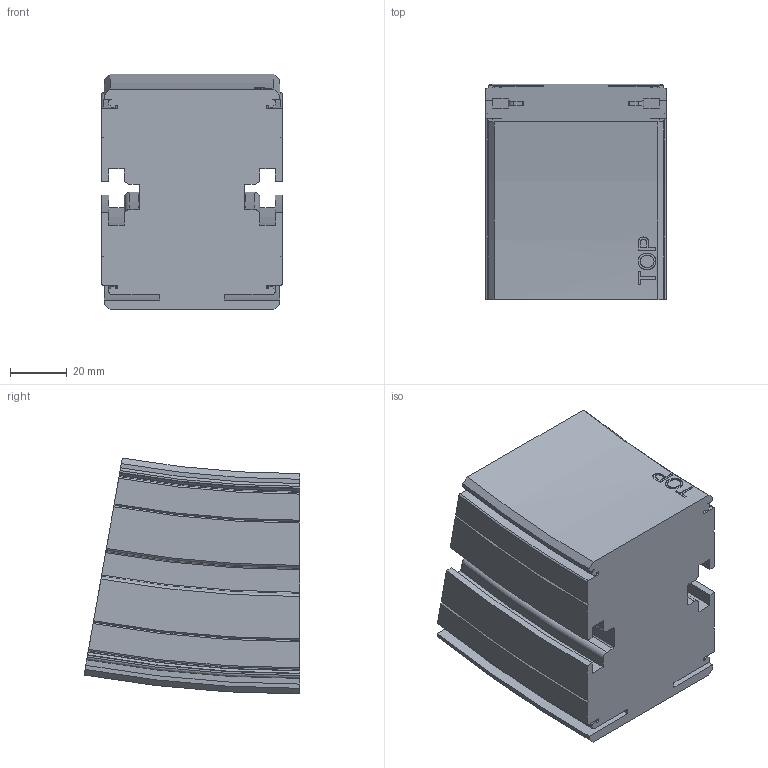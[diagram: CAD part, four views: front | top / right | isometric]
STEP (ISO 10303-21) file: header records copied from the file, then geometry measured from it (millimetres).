
FILE_DESCRIPTION(/* description */ ('VERTIKALKURVA S620 R400'),/* implementation_level */ '2;1');
FILE_NAME(/* name */ '\\carryline.intra\privat\users\mathias\Desktop\Tillfälliga filer\620-5645+620-2000-UPP-01.stp',/* time_stamp */ '2018-12-05T16:02:14+01:00',/* author */ ('MD'),/* organization */ ('CARRYLINE'),/* preprocessor_version */ 'ST-DEVELOPER v17',/* originating_system */ 'Autodesk Inventor 2018',/* authorisation */ '');
FILE_SCHEMA (('AUTOMOTIVE_DESIGN { 1 0 10303 214 3 1 1 }'));
Length unit declared in the file: millimetre
Products named in the file (1): 620-5645+620-2000-UPP-01
Bounding box: 64 x 76.41 x 83.5 mm (x, y, z)
Volume: 312024.4 mm3; surface area: 42970.2 mm2
Topology: 1 solids, 1 shells, 149 faces, 426 edges, 284 vertices
Faces by surface type: plane 54, cylinder 37, torus 28, cone 16, bspline 14
Entity records: 9533 total; most frequent: CARTESIAN_POINT 5513, ORIENTED_EDGE 852, DIRECTION 836, EDGE_CURVE 426, AXIS2_PLACEMENT_3D 315, VERTEX_POINT 284, LINE 206, VECTOR 206
